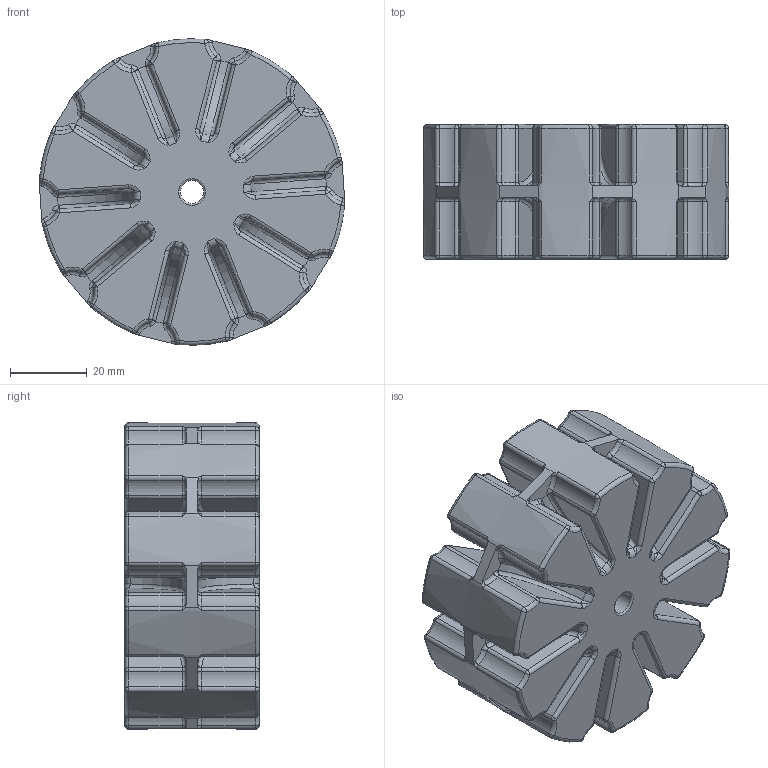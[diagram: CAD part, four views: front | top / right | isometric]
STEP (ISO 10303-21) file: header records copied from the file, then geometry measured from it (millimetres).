
FILE_DESCRIPTION(/* description */ ('Unknown'),/* implementation_level */ '2;1');
FILE_NAME(/* name */ 'GEN0001-D587 MIN Z10 D079.6 SCL PB06 BLUE',/* time_stamp */ '2021-05-19T12:01:33+02:00',/* author */ ('Unknown'),/* organization */ ('Unknown'),/* preprocessor_version */ 'ST-DEVELOPER v16.7',/* originating_system */ 'Solid Edge',/* authorisation */ 'Unknown');
FILE_SCHEMA (('AUTOMOTIVE_DESIGN {1 0 10303 214 3 1 1}'));
Length unit declared in the file: millimetre
Products named in the file (1): GEN0001-D587 MIN Z10 D079.6 SCL PB06 BLUE
Bounding box: 79.42 x 35 x 79.59 mm (x, y, z)
Volume: 141174.2 mm3; surface area: 28286.6 mm2
Topology: 1 solids, 1 shells, 705 faces, 1707 edges, 884 vertices
Faces by surface type: torus 262, cylinder 211, sphere 80, bspline 80, plane 72
Full cylindrical faces by diameter (mm): 6 x1
Entity records: 20868 total; most frequent: CARTESIAN_POINT 5294, DIRECTION 3600, ORIENTED_EDGE 3168, AXIS2_PLACEMENT_3D 1630, EDGE_CURVE 1584, CIRCLE 1004, VERTEX_POINT 884, EDGE_LOOP 710
